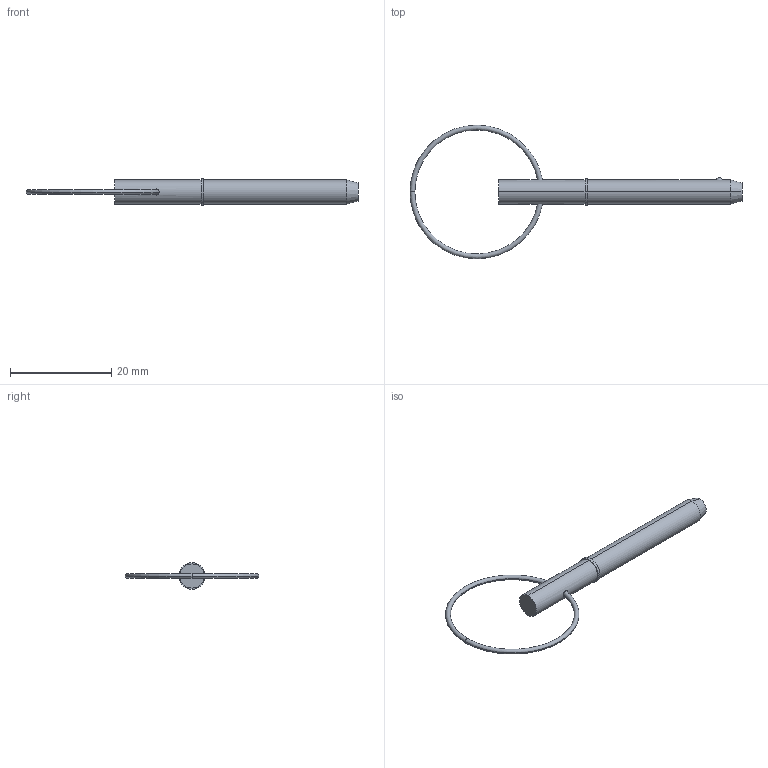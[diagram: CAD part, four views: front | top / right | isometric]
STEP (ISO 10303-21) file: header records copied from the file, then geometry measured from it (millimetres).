
FILE_DESCRIPTION (( 'STEP AP203' ), '1' );
FILE_NAME ('33014.W1810.step', '2024-11-04T08:22:10', ( '' ), ( '' ), 'SwSTEP 2.0', 'SolidWorks 2019', '' );
FILE_SCHEMA (( 'CONFIG_CONTROL_DESIGN' ));
Length unit declared in the file: millimetre
Products named in the file (3): 33014.W1810; Part2_33014.W1810; Part1_33014.W1810
Assembly tree (2 placements, depth 2):
  33014.W1810
    Part1_33014.W1810
    Part2_33014.W1810
Bounding box: 65.46 x 26.35 x 5.24 mm (x, y, z)
Volume: 897.5 mm3; surface area: 1004.3 mm2
Topology: 2 solids, 2 shells, 22 faces, 43 edges, 26 vertices
Faces by surface type: torus 8, cylinder 6, plane 4, sphere 2, cone 2
Entity records: 939 total; most frequent: CARTESIAN_POINT 162, DIRECTION 120, ORIENTED_EDGE 86, AXIS2_PLACEMENT_3D 56, EDGE_CURVE 43, CIRCLE 29, EDGE_LOOP 27, PERSON_AND_ORGANIZATION 26
